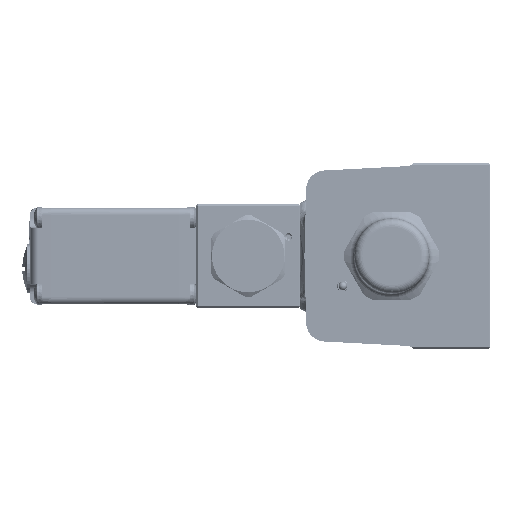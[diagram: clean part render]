
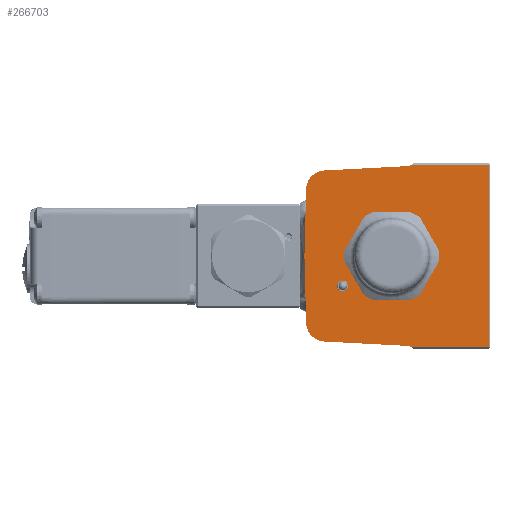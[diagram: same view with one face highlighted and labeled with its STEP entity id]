
A CAD part, left-side view. The second image highlights one B-rep face of the part: STEP entity #266703.
In plain terms, the highlighted planar face has unit normal (-1, 0, 0).
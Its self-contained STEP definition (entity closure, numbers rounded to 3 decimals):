
#1069 = CARTESIAN_POINT ( 'NONE',  ( -46.6, -36., 33.5 ) ) ;
#2637 = LINE ( 'NONE', #58775, #229679 ) ;
#8633 = CIRCLE ( 'NONE', #258806, 16. ) ;
#10400 = CARTESIAN_POINT ( 'NONE',  ( -46.6, 31.358, 24.53 ) ) ;
#11774 = EDGE_CURVE ( 'NONE', #233993, #155412, #78448, .T. ) ;
#14136 = EDGE_CURVE ( 'NONE', #126707, #279749, #266435, .T. ) ;
#23785 = ORIENTED_EDGE ( 'NONE', *, *, #96742, .T. ) ;
#26025 = EDGE_CURVE ( 'NONE', #134069, #233993, #115816, .T. ) ;
#28216 = ORIENTED_EDGE ( 'NONE', *, *, #181664, .T. ) ;
#28448 = FACE_OUTER_BOUND ( 'NONE', #219519, .T. ) ;
#29452 = DIRECTION ( 'NONE',  ( -1., 0., 0. ) ) ;
#30583 = DIRECTION ( 'NONE',  ( 1., 0., 0. ) ) ;
#31517 = EDGE_LOOP ( 'NONE', ( #194983, #197128 ) ) ;
#31767 = VECTOR ( 'NONE', #72645, 1000. ) ;
#34513 = CARTESIAN_POINT ( 'NONE',  ( -46.6, 18., -11. ) ) ;
#36092 = DIRECTION ( 'NONE',  ( -1., 0., 0. ) ) ;
#49030 = ORIENTED_EDGE ( 'NONE', *, *, #14136, .F. ) ;
#49474 = CARTESIAN_POINT ( 'NONE',  ( -46.6, 16., 0. ) ) ;
#50447 = DIRECTION ( 'NONE',  ( 1., 0., 0. ) ) ;
#50620 = CARTESIAN_POINT ( 'NONE',  ( -46.6, 1.706, 32.544 ) ) ;
#50677 = DIRECTION ( 'NONE',  ( -1., 0., 0. ) ) ;
#50892 = EDGE_CURVE ( 'NONE', #235085, #279749, #280359, .T. ) ;
#51157 = ORIENTED_EDGE ( 'NONE', *, *, #102928, .F. ) ;
#54928 = VECTOR ( 'NONE', #249698, 1000. ) ;
#55919 = VERTEX_POINT ( 'NONE', #235969 ) ;
#56010 = CIRCLE ( 'NONE', #142144, 2. ) ;
#56073 = DIRECTION ( 'NONE',  ( -1., 0., 0. ) ) ;
#56622 = DIRECTION ( 'NONE',  ( 0., 0., 1. ) ) ;
#57229 = VECTOR ( 'NONE', #136807, 1000. ) ;
#58775 = CARTESIAN_POINT ( 'NONE',  ( -46.6, -36., -33.5 ) ) ;
#59966 = VERTEX_POINT ( 'NONE', #49474 ) ;
#60160 = EDGE_CURVE ( 'NONE', #109226, #82200, #56010, .T. ) ;
#62752 = CARTESIAN_POINT ( 'NONE',  ( -46.6, 24.36, 24.347 ) ) ;
#64458 = EDGE_CURVE ( 'NONE', #224403, #173642, #281506, .T. ) ;
#69213 = CARTESIAN_POINT ( 'NONE',  ( -46.6, 24.726, -31.337 ) ) ;
#71865 = CARTESIAN_POINT ( 'NONE',  ( -46.6, -5.693, -35.936 ) ) ;
#72645 = DIRECTION ( 'NONE',  ( 0., -0.026, 1. ) ) ;
#73106 = ORIENTED_EDGE ( 'NONE', *, *, #78046, .F. ) ;
#78046 = EDGE_CURVE ( 'NONE', #235085, #173642, #90265, .T. ) ;
#78448 = LINE ( 'NONE', #1069, #253979 ) ;
#82200 = VERTEX_POINT ( 'NONE', #123441 ) ;
#84828 = DIRECTION ( 'NONE',  ( 0., 0., 1. ) ) ;
#89105 = EDGE_CURVE ( 'NONE', #265407, #55919, #237753, .T. ) ;
#90265 = LINE ( 'NONE', #244953, #31767 ) ;
#92919 = EDGE_CURVE ( 'NONE', #210839, #59966, #8633, .T. ) ;
#93946 = CIRCLE ( 'NONE', #204088, 3. ) ;
#94021 = DIRECTION ( 'NONE',  ( 0., 0., 1. ) ) ;
#94122 = EDGE_CURVE ( 'NONE', #82200, #109226, #226428, .T. ) ;
#96742 = EDGE_CURVE ( 'NONE', #126707, #265407, #240895, .T. ) ;
#99242 = EDGE_CURVE ( 'NONE', #59966, #210839, #114287, .T. ) ;
#102876 = ORIENTED_EDGE ( 'NONE', *, *, #26025, .T. ) ;
#102928 = EDGE_CURVE ( 'NONE', #224403, #273260, #230532, .T. ) ;
#107926 = ORIENTED_EDGE ( 'NONE', *, *, #60160, .F. ) ;
#109226 = VERTEX_POINT ( 'NONE', #179382 ) ;
#112419 = ORIENTED_EDGE ( 'NONE', *, *, #192894, .T. ) ;
#113037 = ORIENTED_EDGE ( 'NONE', *, *, #89105, .T. ) ;
#114287 = CIRCLE ( 'NONE', #194825, 16. ) ;
#115816 = LINE ( 'NONE', #224284, #57229 ) ;
#117318 = CARTESIAN_POINT ( 'NONE',  ( -46.6, -7.444, 33.5 ) ) ;
#123441 = CARTESIAN_POINT ( 'NONE',  ( -46.6, 18., -9. ) ) ;
#126485 = AXIS2_PLACEMENT_3D ( 'NONE', #34513, #188448, #56622 ) ;
#126707 = VERTEX_POINT ( 'NONE', #69213 ) ;
#134069 = VERTEX_POINT ( 'NONE', #228296 ) ;
#136807 = DIRECTION ( 'NONE',  ( 0., 0., 1. ) ) ;
#142144 = AXIS2_PLACEMENT_3D ( 'NONE', #187901, #56073, #209976 ) ;
#144467 = ORIENTED_EDGE ( 'NONE', *, *, #50892, .T. ) ;
#146503 = CARTESIAN_POINT ( 'NONE',  ( -46.6, 1.706, -32.544 ) ) ;
#155412 = VERTEX_POINT ( 'NONE', #117318 ) ;
#161147 = CARTESIAN_POINT ( 'NONE',  ( -46.6, 0., 0. ) ) ;
#162324 = CARTESIAN_POINT ( 'NONE',  ( -46.6, -5.693, 35.936 ) ) ;
#164581 = ORIENTED_EDGE ( 'NONE', *, *, #64458, .T. ) ;
#167827 = CARTESIAN_POINT ( 'NONE',  ( -46.6, -36., -34. ) ) ;
#168657 = DIRECTION ( 'NONE',  ( 0., -0.999, -0.052 ) ) ;
#170994 = CARTESIAN_POINT ( 'NONE',  ( -46.6, 31.978, -0.837 ) ) ;
#172688 = CARTESIAN_POINT ( 'NONE',  ( -46.6, 32., 0. ) ) ;
#173642 = VERTEX_POINT ( 'NONE', #10400 ) ;
#178750 = AXIS2_PLACEMENT_3D ( 'NONE', #62752, #216663, #84828 ) ;
#179382 = CARTESIAN_POINT ( 'NONE',  ( -46.6, 18., -13. ) ) ;
#181664 = EDGE_CURVE ( 'NONE', #155412, #273260, #93946, .T. ) ;
#182272 = CARTESIAN_POINT ( 'NONE',  ( -46.6, 24.36, -24.347 ) ) ;
#182495 = CARTESIAN_POINT ( 'NONE',  ( -46.6, 0., 0. ) ) ;
#183352 = DIRECTION ( 'NONE',  ( 0., -1., 0. ) ) ;
#184454 = DIRECTION ( 'NONE',  ( 0., 0., 1. ) ) ;
#187901 = CARTESIAN_POINT ( 'NONE',  ( -46.6, 18., -11. ) ) ;
#188448 = DIRECTION ( 'NONE',  ( -1., 0., 0. ) ) ;
#190093 = DIRECTION ( 'NONE',  ( 0., 0., 1. ) ) ;
#192894 = EDGE_CURVE ( 'NONE', #55919, #134069, #2637, .T. ) ;
#194825 = AXIS2_PLACEMENT_3D ( 'NONE', #161147, #29452, #183352 ) ;
#194983 = ORIENTED_EDGE ( 'NONE', *, *, #92919, .F. ) ;
#197128 = ORIENTED_EDGE ( 'NONE', *, *, #99242, .F. ) ;
#197160 = FACE_BOUND ( 'NONE', #272353, .T. ) ;
#201994 = CARTESIAN_POINT ( 'NONE',  ( -46.6, 24.726, 31.337 ) ) ;
#204088 = AXIS2_PLACEMENT_3D ( 'NONE', #162324, #30583, #184454 ) ;
#204361 = DIRECTION ( 'NONE',  ( 0., 0., 1. ) ) ;
#204583 = DIRECTION ( 'NONE',  ( 0., -1., 0. ) ) ;
#207654 = CARTESIAN_POINT ( 'NONE',  ( -46.6, -16., 0. ) ) ;
#209976 = DIRECTION ( 'NONE',  ( 0., 0., 1. ) ) ;
#210839 = VERTEX_POINT ( 'NONE', #207654 ) ;
#211149 = PLANE ( 'NONE',  #283871 ) ;
#216663 = DIRECTION ( 'NONE',  ( -1., 0., 0. ) ) ;
#219519 = EDGE_LOOP ( 'NONE', ( #113037, #112419, #102876, #270307, #28216, #51157, #164581, #73106, #144467, #49030, #23785 ) ) ;
#224284 = CARTESIAN_POINT ( 'NONE',  ( -46.6, -35.5, -34. ) ) ;
#224403 = VERTEX_POINT ( 'NONE', #201994 ) ;
#224959 = AXIS2_PLACEMENT_3D ( 'NONE', #182272, #50447, #204361 ) ;
#225867 = DIRECTION ( 'NONE',  ( 1., 0., 0. ) ) ;
#226428 = CIRCLE ( 'NONE', #126485, 2. ) ;
#228296 = CARTESIAN_POINT ( 'NONE',  ( -46.6, -35.5, -33.5 ) ) ;
#229679 = VECTOR ( 'NONE', #256926, 1000. ) ;
#230532 = LINE ( 'NONE', #50620, #54928 ) ;
#231323 = AXIS2_PLACEMENT_3D ( 'NONE', #71865, #225867, #94021 ) ;
#233945 = VECTOR ( 'NONE', #168657, 1000. ) ;
#233993 = VERTEX_POINT ( 'NONE', #245947 ) ;
#235085 = VERTEX_POINT ( 'NONE', #172688 ) ;
#235969 = CARTESIAN_POINT ( 'NONE',  ( -46.6, -7.444, -33.5 ) ) ;
#237753 = CIRCLE ( 'NONE', #231323, 3. ) ;
#240466 = CARTESIAN_POINT ( 'NONE',  ( -46.6, 31.358, -24.53 ) ) ;
#240895 = LINE ( 'NONE', #146503, #233945 ) ;
#244953 = CARTESIAN_POINT ( 'NONE',  ( -46.6, 31.978, 0.837 ) ) ;
#245947 = CARTESIAN_POINT ( 'NONE',  ( -46.6, -35.5, 33.5 ) ) ;
#248663 = FACE_BOUND ( 'NONE', #31517, .T. ) ;
#249698 = DIRECTION ( 'NONE',  ( 0., -0.999, 0.052 ) ) ;
#249963 = CARTESIAN_POINT ( 'NONE',  ( -46.6, -5.85, 32.94 ) ) ;
#253979 = VECTOR ( 'NONE', #265472, 1000. ) ;
#256642 = DIRECTION ( 'NONE',  ( 0., -0.026, -1. ) ) ;
#256926 = DIRECTION ( 'NONE',  ( 0., -1., 0. ) ) ;
#258806 = AXIS2_PLACEMENT_3D ( 'NONE', #182495, #50677, #204583 ) ;
#259189 = CARTESIAN_POINT ( 'NONE',  ( -46.6, -5.85, -32.94 ) ) ;
#265407 = VERTEX_POINT ( 'NONE', #259189 ) ;
#265472 = DIRECTION ( 'NONE',  ( 0., 1., 0. ) ) ;
#266435 = CIRCLE ( 'NONE', #224959, 7. ) ;
#266703 = ADVANCED_FACE ( 'NONE', ( #197160, #28448, #248663 ), #211149, .T. ) ;
#270307 = ORIENTED_EDGE ( 'NONE', *, *, #11774, .T. ) ;
#272353 = EDGE_LOOP ( 'NONE', ( #277604, #107926 ) ) ;
#273260 = VERTEX_POINT ( 'NONE', #249963 ) ;
#273385 = VECTOR ( 'NONE', #256642, 1000. ) ;
#277604 = ORIENTED_EDGE ( 'NONE', *, *, #94122, .F. ) ;
#279749 = VERTEX_POINT ( 'NONE', #240466 ) ;
#280359 = LINE ( 'NONE', #170994, #273385 ) ;
#281506 = CIRCLE ( 'NONE', #178750, 7. ) ;
#283871 = AXIS2_PLACEMENT_3D ( 'NONE', #167827, #36092, #190093 ) ;
